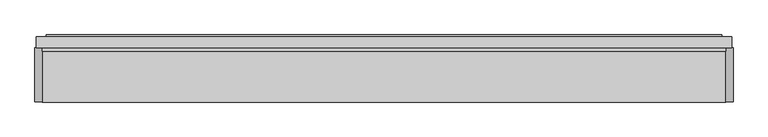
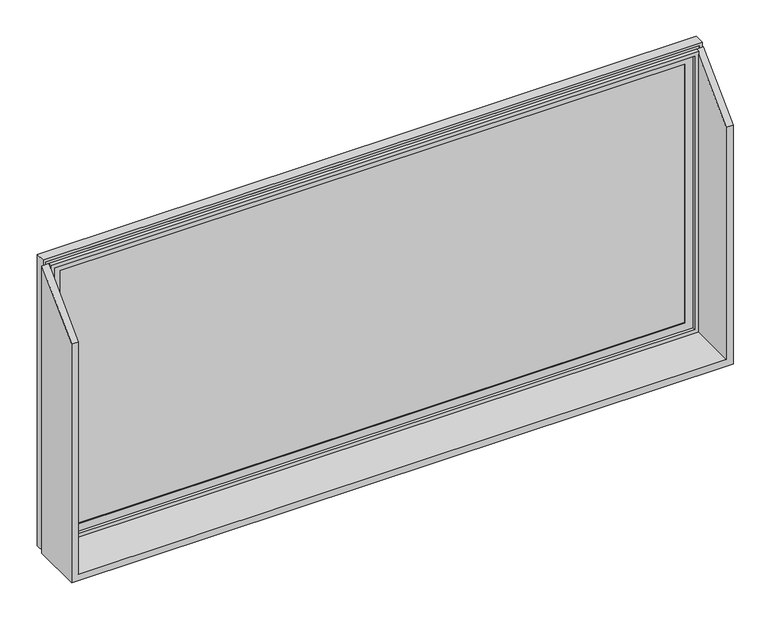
"""IFC4 building model written with IfcOpenShell, lengths in millimetres: plate geometry, SCISSOR PANEL : SCISSOR PANEL."""

from ifc_helpers import new_model, si_unit, frame, origin, place, context, project, spatial, polyline, outline, extrude, faceted_brep, source, transform, mapped, element, save


def plate_6b9d3e6a(model_context):
    return source(origin(), model_context, "Body", "SolidModel", [
        faceted_brep([(851.0951718, 132.5, 0.0), (-851.0951718, 132.5, 0.0), (-851.0951718, 132.5, 782.5), (-833.5951718, 132.5, 782.5), (-833.5951718, 132.5, 17.5), (833.5951718, 132.5, 17.5), (833.5951718, 132.5, 782.5), (851.0951718, 132.5, 782.5), (-833.5951718, 0.0, 650.0), (-833.5951718, 0.0, 17.5), (833.5951718, 0.0, 17.5), (833.5951718, 0.0, 650.0), (851.0951718, 0.0, 650.0), (-851.0951718, 0.0, 650.0), (-851.0951718, 0.0, 0.0), (851.0951718, 0.0, 0.0)], [[[0, 1, 2, 3, 4, 5, 6, 7]], [[4, 3, 8, 9]], [[6, 5, 10, 11]], [[11, 12, 7, 6]], [[13, 8, 3, 2]], [[14, 15, 12, 11, 10, 9, 8, 13]], [[1, 14, 13, 2]], [[15, 14, 1, 0]], [[15, 0, 7, 12]], [[9, 10, 5, 4]]]),
        extrude(outline(polyline([(-820.5951718, 160.5), (820.5951718, 160.5), (820.5951718, 135.5), (-820.5951718, 135.5), (-820.5951718, 160.5)])), frame((0.0, 0.0, 30.5), z_axis=(0.0, 0.0, 1.0), x_axis=(1.0, 0.0, 0.0)), (0.0, 0.0, 1.0), 739.0),
        faceted_brep([(-803.5951718, 135.5, 752.5), (-803.5951718, 132.5, 752.5), (-803.5951718, 132.5, 47.5), (-803.5951718, 135.5, 47.5), (-820.5951718, 160.5, 769.5), (-820.5951718, 135.5, 769.5), (-820.5951718, 135.5, 30.5), (-820.5951718, 160.5, 30.5), (-803.5951718, 163.5, 752.5), (-803.5951718, 160.5, 752.5), (-803.5951718, 160.5, 47.5), (-803.5951718, 163.5, 47.5), (-823.5951718, 132.5, 772.5), (-823.5951718, 163.5, 772.5), (-823.5951718, 163.5, 27.5), (-823.5951718, 132.5, 27.5), (803.5951718, 132.5, 47.5), (803.5951718, 135.5, 47.5), (820.5951718, 135.5, 30.5), (820.5951718, 160.5, 30.5), (803.5951718, 160.5, 47.5), (803.5951718, 163.5, 47.5), (823.5951718, 163.5, 27.5), (823.5951718, 132.5, 27.5), (803.5951718, 132.5, 752.5), (803.5951718, 135.5, 752.5), (820.5951718, 135.5, 769.5), (820.5951718, 160.5, 769.5), (803.5951718, 160.5, 752.5), (803.5951718, 163.5, 752.5), (823.5951718, 163.5, 772.5), (823.5951718, 132.5, 772.5)], [[[0, 1, 2, 3]], [[4, 5, 6, 7]], [[8, 9, 10, 11]], [[12, 13, 14, 15]], [[3, 2, 16, 17]], [[7, 6, 18, 19]], [[11, 10, 20, 21]], [[15, 14, 22, 23]], [[17, 16, 24, 25]], [[19, 18, 26, 27]], [[21, 20, 28, 29]], [[23, 22, 30, 31]], [[15, 23, 31, 12], [1, 24, 16, 2]], [[25, 24, 1, 0]], [[5, 26, 18, 6], [3, 17, 25, 0]], [[27, 26, 5, 4]], [[7, 19, 27, 4], [9, 28, 20, 10]], [[29, 28, 9, 8]], [[13, 30, 22, 14], [11, 21, 29, 8]], [[31, 30, 13, 12]]]),
        faceted_brep([(-847.5951718, 132.5, 796.5), (-847.5951718, 158.75, 796.5), (-847.5951718, 158.75, 3.5), (-847.5951718, 132.5, 3.5), (-840.5951718, 150.0, 789.5), (-840.5951718, 132.5, 789.5), (-840.5951718, 132.5, 10.5), (-840.5951718, 150.0, 10.5), (-833.5951718, 123.75, 782.5), (-833.5951718, 150.0, 782.5), (-833.5951718, 150.0, 17.5), (-833.5951718, 123.75, 17.5), (-823.5951718, 158.75, 772.5), (-823.5951718, 123.75, 772.5), (-823.5951718, 123.75, 27.5), (-823.5951718, 158.75, 27.5), (847.5951718, 158.75, 3.5), (847.5951718, 132.5, 3.5), (840.5951718, 132.5, 10.5), (840.5951718, 150.0, 10.5), (833.5951718, 150.0, 17.5), (833.5951718, 123.75, 17.5), (823.5951718, 123.75, 27.5), (823.5951718, 158.75, 27.5), (847.5951718, 158.75, 796.5), (847.5951718, 132.5, 796.5), (840.5951718, 132.5, 789.5), (840.5951718, 150.0, 789.5), (833.5951718, 150.0, 782.5), (833.5951718, 123.75, 782.5), (823.5951718, 123.75, 772.5), (823.5951718, 158.75, 772.5)], [[[0, 1, 2, 3]], [[4, 5, 6, 7]], [[8, 9, 10, 11]], [[12, 13, 14, 15]], [[3, 2, 16, 17]], [[7, 6, 18, 19]], [[11, 10, 20, 21]], [[15, 14, 22, 23]], [[17, 16, 24, 25]], [[19, 18, 26, 27]], [[21, 20, 28, 29]], [[23, 22, 30, 31]], [[25, 24, 1, 0]], [[3, 17, 25, 0], [5, 26, 18, 6]], [[27, 26, 5, 4]], [[7, 19, 27, 4], [9, 28, 20, 10]], [[29, 28, 9, 8]], [[11, 21, 29, 8], [13, 30, 22, 14]], [[31, 30, 13, 12]], [[1, 24, 16, 2], [15, 23, 31, 12]]]),
        extrude(outline(polyline([(789.5, -840.5951718), (10.5, -840.5951718), (10.5, 840.5951718), (789.5, 840.5951718), (789.5, -840.5951718)]), holes=[polyline([(782.5, -833.5951718), (782.5, 833.5951718), (17.5, 833.5951718), (17.5, -833.5951718), (782.5, -833.5951718)])]), frame((0.0, 132.5, 0.0), z_axis=(0.0, 1.0, 0.0), x_axis=(0.0, 0.0, 1.0)), (0.0, 0.0, 1.0), 17.5),
    ])


if __name__ == "__main__":
    model = new_model("IFC4")
    model_context = context("Model", 3, world=origin())
    ifc_project = project(units=[si_unit("LENGTHUNIT", "METRE", prefix="MILLI")], contexts=[model_context])
    site = spatial("IfcSite", under=ifc_project)
    building = spatial("IfcBuilding", under=site)
    placement = place(None, origin())
    plate_shape = plate_6b9d3e6a(model_context)
    element("IfcPlate", 1, ObjectType="SCISSOR PANEL : SCISSOR PANEL", at=placement, inside=building, context=model_context, shape_type="MappedRepresentation", body=[
        mapped(plate_shape, transform((0.0, 0.0, 0.0), x_axis=(1.0, 0.0, 0.0), y_axis=(0.0, 1.0, 0.0), z_axis=(0.0, 0.0, 1.0))),
    ])
    save(model, "model.ifc")
